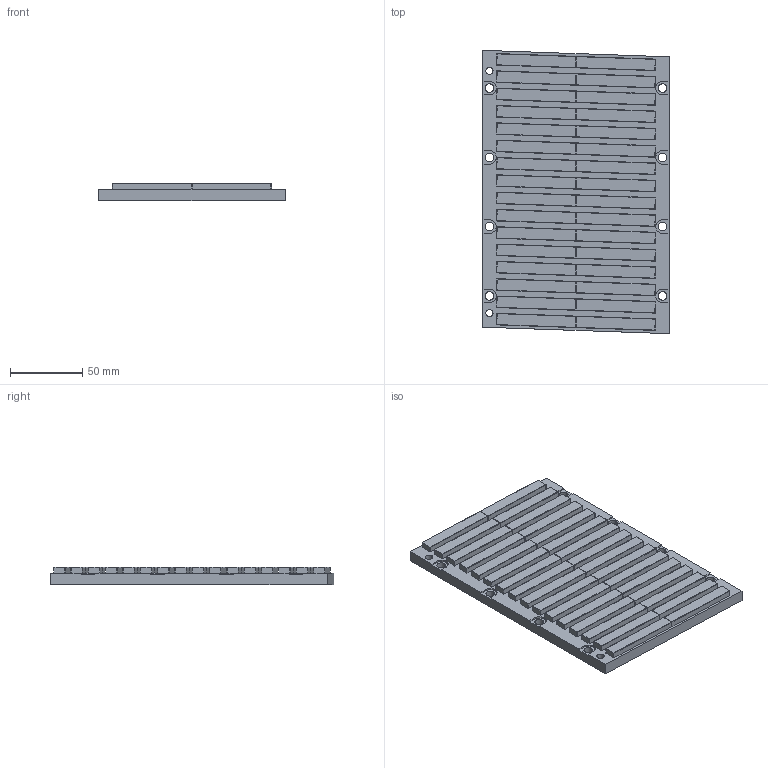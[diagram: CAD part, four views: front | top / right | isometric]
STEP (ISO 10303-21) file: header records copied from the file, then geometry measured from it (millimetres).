
FILE_DESCRIPTION (( 'STEP AP214' ), '1' );
FILE_NAME ('MPV124-192.STEP', '2024-07-24T02:16:48', ( '' ), ( '' ), 'SwSTEP 2.0', 'SolidWorks 2019', '' );
FILE_SCHEMA (( 'AUTOMOTIVE_DESIGN' ));
Length unit declared in the file: millimetre
Products named in the file (1): MPV124-192
Bounding box: 129 x 196.35 x 12 mm (x, y, z)
Volume: 251747.3 mm3; surface area: 70337.7 mm2
Topology: 1 solids, 1 shells, 606 faces, 1476 edges, 760 vertices
Faces by surface type: cylinder 320, plane 158, bspline 128
Entity records: 17978 total; most frequent: CARTESIAN_POINT 4647, DIRECTION 2946, ORIENTED_EDGE 2696, EDGE_CURVE 1348, AXIS2_PLACEMENT_3D 1119, VERTEX_POINT 760, VECTOR 708, LINE 708
